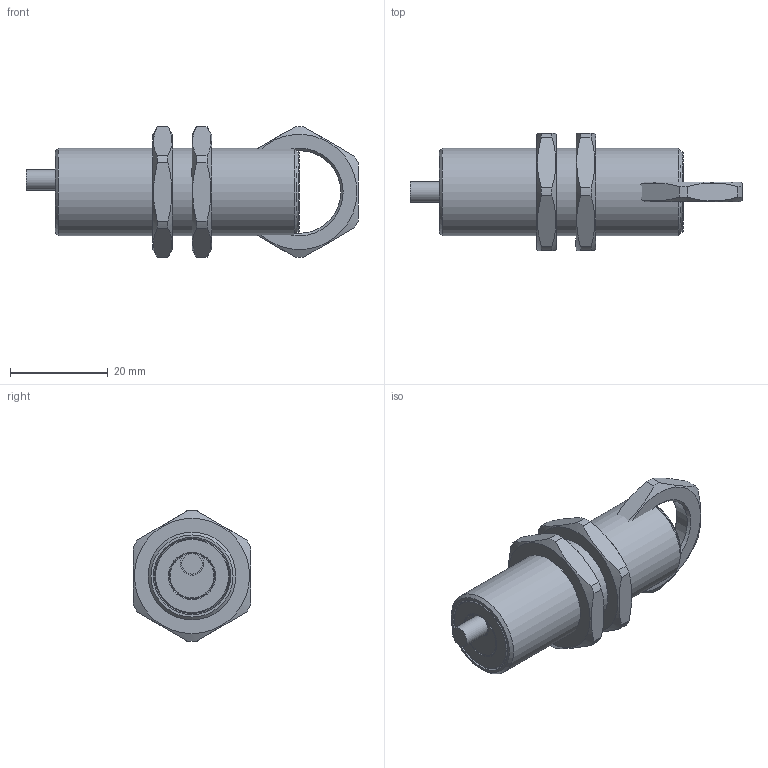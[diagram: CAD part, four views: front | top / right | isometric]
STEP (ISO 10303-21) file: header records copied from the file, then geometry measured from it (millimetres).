
FILE_DESCRIPTION( ( 'Unknown' ), '1' );
FILE_NAME( 'Z:/bereich/BECH/Services/me_CAD/Solid Edge/Models/Dokumentationen/Induktiv/IxRx 18/Vereinfachte Modelle/Neutralformate/IFRM 18xx7M1_L.stp', 'Unknown', ( 'Unknown' ), ( 'Unknown' ), 'PSStep 10.0', 'Unknown', ' ' );
FILE_SCHEMA( ( 'AUTOMOTIVE_DESIGN { 1 0 10303 214 1 1 1 1 }' ) );
Length unit declared in the file: millimetre
Products named in the file (3): Assem1; 101474; IFRM 18xx7M1_L_oA
Bounding box: 68 x 24 x 26.8 mm (x, y, z)
Volume: 28621.2 mm3; surface area: 9879.4 mm2
Topology: 5 solids, 5 shells, 103 faces, 239 edges, 156 vertices
Faces by surface type: plane 46, cylinder 29, cone 28
Full cylindrical faces by diameter (mm): 4.2 x2, 15.34 x2, 16.4 x2, 16.917 x3, 18 x2
Entity records: 1360 total; most frequent: CARTESIAN_POINT 328, DIRECTION 186, ORIENTED_EDGE 150, AXIS2_PLACEMENT_3D 83, EDGE_CURVE 75, EDGE_LOOP 64, VERTEX_POINT 57, FACE_OUTER_BOUND 47
